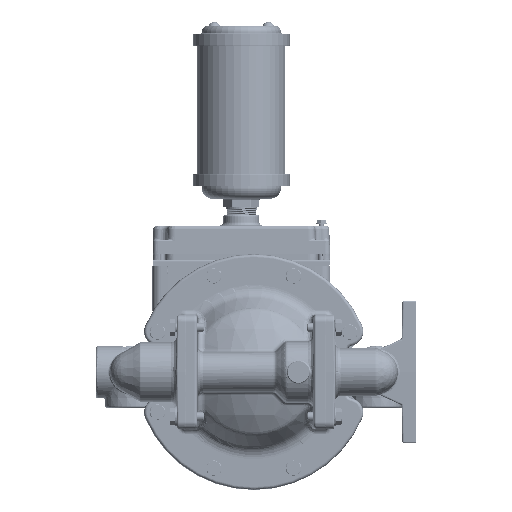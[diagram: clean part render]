
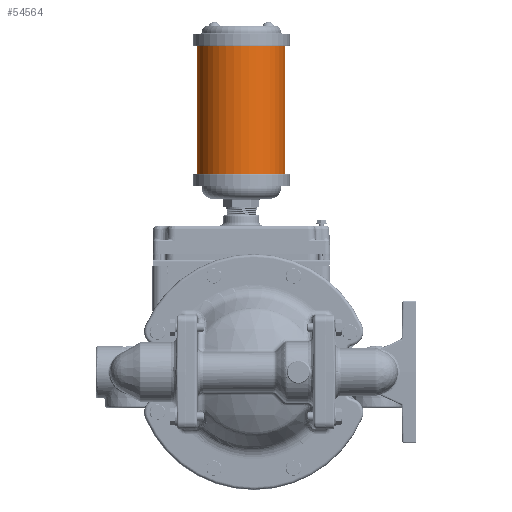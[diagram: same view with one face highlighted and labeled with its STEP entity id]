
A CAD part, left-side view. The second image highlights one B-rep face of the part: STEP entity #54564.
In plain terms, the highlighted cylindrical face has radius 39.243 mm (diameter 78.486 mm), a partial arc.
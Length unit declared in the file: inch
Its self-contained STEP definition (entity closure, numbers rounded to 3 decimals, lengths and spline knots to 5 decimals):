
#7417 = DIRECTION ( 'NONE',  ( 0., 0., -1. ) ) ;
#9513 = EDGE_CURVE ( 'NONE', #179553, #83099, #242028, .T. ) ;
#14327 = ORIENTED_EDGE ( 'NONE', *, *, #174143, .T. ) ;
#19914 = CARTESIAN_POINT ( 'NONE',  ( 0., -1.11, 11.43 ) ) ;
#26168 = CARTESIAN_POINT ( 'NONE',  ( 0., 0.435, 11.43 ) ) ;
#41941 = VERTEX_POINT ( 'NONE', #190736 ) ;
#45302 = DIRECTION ( 'NONE',  ( 0., 0., 1. ) ) ;
#45313 = DIRECTION ( 'NONE',  ( 0., 0., -1. ) ) ;
#48410 = FACE_OUTER_BOUND ( 'NONE', #228905, .T. ) ;
#53980 = CARTESIAN_POINT ( 'NONE',  ( 0., 1.98, 11.43 ) ) ;
#54564 = ADVANCED_FACE ( 'NONE', ( #48410 ), #189284, .T. ) ;
#55328 = DIRECTION ( 'NONE',  ( 0., 0., -1. ) ) ;
#55999 = AXIS2_PLACEMENT_3D ( 'NONE', #126427, #7417, #211137 ) ;
#58008 = LINE ( 'NONE', #53980, #210292 ) ;
#70142 = ORIENTED_EDGE ( 'NONE', *, *, #230243, .F. ) ;
#82266 = DIRECTION ( 'NONE',  ( 0., 1., 0. ) ) ;
#83099 = VERTEX_POINT ( 'NONE', #144715 ) ;
#88929 = VERTEX_POINT ( 'NONE', #233444 ) ;
#91781 = ORIENTED_EDGE ( 'NONE', *, *, #9513, .T. ) ;
#105489 = CARTESIAN_POINT ( 'NONE',  ( 0., 0.435, 6.951 ) ) ;
#122462 = LINE ( 'NONE', #19914, #160351 ) ;
#126427 = CARTESIAN_POINT ( 'NONE',  ( 0., 0.435, 12.455 ) ) ;
#144715 = CARTESIAN_POINT ( 'NONE',  ( 0., -1.11, 6.951 ) ) ;
#154614 = AXIS2_PLACEMENT_3D ( 'NONE', #26168, #45313, #208086 ) ;
#160351 = VECTOR ( 'NONE', #160766, 39.37008 ) ;
#160766 = DIRECTION ( 'NONE',  ( 0., 0., -1. ) ) ;
#168773 = EDGE_CURVE ( 'NONE', #88929, #179553, #58008, .T. ) ;
#174143 = EDGE_CURVE ( 'NONE', #41941, #88929, #268221, .T. ) ;
#179553 = VERTEX_POINT ( 'NONE', #246125 ) ;
#189284 = CYLINDRICAL_SURFACE ( 'NONE', #55999, 1.545 ) ;
#190736 = CARTESIAN_POINT ( 'NONE',  ( 0., -1.11, 11.43 ) ) ;
#193975 = AXIS2_PLACEMENT_3D ( 'NONE', #105489, #45302, #82266 ) ;
#208086 = DIRECTION ( 'NONE',  ( 0., -1., 0. ) ) ;
#210292 = VECTOR ( 'NONE', #55328, 39.37008 ) ;
#211137 = DIRECTION ( 'NONE',  ( 0., -1., 0. ) ) ;
#228905 = EDGE_LOOP ( 'NONE', ( #91781, #70142, #14327, #232086 ) ) ;
#230243 = EDGE_CURVE ( 'NONE', #41941, #83099, #122462, .T. ) ;
#232086 = ORIENTED_EDGE ( 'NONE', *, *, #168773, .T. ) ;
#233444 = CARTESIAN_POINT ( 'NONE',  ( 0., 1.98, 11.43 ) ) ;
#242028 = CIRCLE ( 'NONE', #193975, 1.545 ) ;
#246125 = CARTESIAN_POINT ( 'NONE',  ( 0., 1.98, 6.951 ) ) ;
#268221 = CIRCLE ( 'NONE', #154614, 1.545 ) ;
